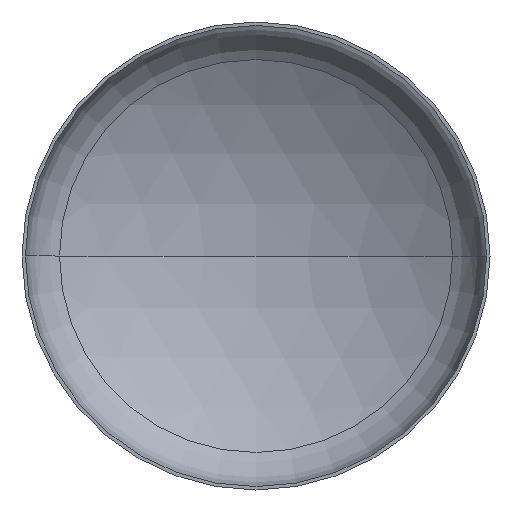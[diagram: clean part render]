
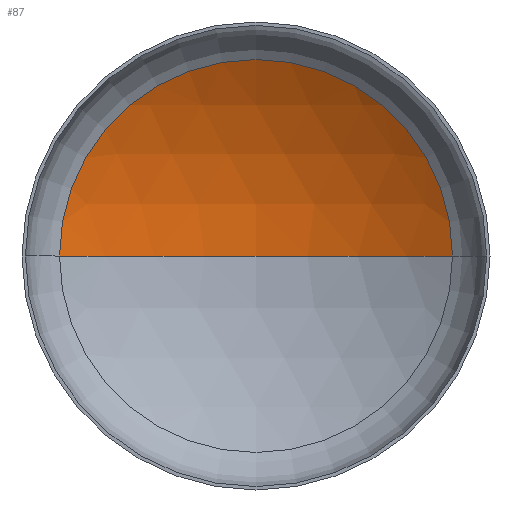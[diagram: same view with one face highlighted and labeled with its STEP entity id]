
A CAD part, front view. The second image highlights one B-rep face of the part: STEP entity #87.
In plain terms, the highlighted spherical face has radius 2400 mm.
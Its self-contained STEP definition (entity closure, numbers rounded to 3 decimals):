
#34 = AXIS2_PLACEMENT_3D ( 'NONE', #308, #304, #381 ) ;
#37 = AXIS2_PLACEMENT_3D ( 'NONE', #93, #200, #214 ) ;
#41 = AXIS2_PLACEMENT_3D ( 'NONE', #88, #69, #55 ) ;
#54 = EDGE_LOOP ( 'NONE', ( #127, #114, #60 ) ) ;
#55 = DIRECTION ( 'NONE',  ( 1., 0., 0. ) ) ;
#60 = ORIENTED_EDGE ( 'NONE', *, *, #137, .T. ) ;
#69 = DIRECTION ( 'NONE',  ( 0., -1., 0. ) ) ;
#71 = VERTEX_POINT ( 'NONE', #322 ) ;
#75 = VERTEX_POINT ( 'NONE', #228 ) ;
#80 = AXIS2_PLACEMENT_3D ( 'NONE', #314, #249, #267 ) ;
#87 = ADVANCED_FACE ( 'NONE', ( #387 ), #289, .F. ) ;
#88 = CARTESIAN_POINT ( 'NONE',  ( 0., 461.58, 0. ) ) ;
#93 = CARTESIAN_POINT ( 'NONE',  ( 0., -1581.447, 0. ) ) ;
#114 = ORIENTED_EDGE ( 'NONE', *, *, #141, .T. ) ;
#127 = ORIENTED_EDGE ( 'NONE', *, *, #143, .F. ) ;
#134 = VERTEX_POINT ( 'NONE', #227 ) ;
#137 = EDGE_CURVE ( 'NONE', #134, #75, #326, .T. ) ;
#141 = EDGE_CURVE ( 'NONE', #71, #134, #260, .T. ) ;
#143 = EDGE_CURVE ( 'NONE', #71, #75, #164, .T. ) ;
#164 = CIRCLE ( 'NONE', #34, 2400. ) ;
#200 = DIRECTION ( 'NONE',  ( 0., 0., -1. ) ) ;
#214 = DIRECTION ( 'NONE',  ( -1., 0., 0. ) ) ;
#227 = CARTESIAN_POINT ( 'NONE',  ( 1259.381, 461.58, 0. ) ) ;
#228 = CARTESIAN_POINT ( 'NONE',  ( -1259.381, 461.58, 0. ) ) ;
#249 = DIRECTION ( 'NONE',  ( 0., 0., -1. ) ) ;
#260 = CIRCLE ( 'NONE', #37, 2400. ) ;
#267 = DIRECTION ( 'NONE',  ( -1., 0., 0. ) ) ;
#289 = SPHERICAL_SURFACE ( 'NONE', #80, 2400. ) ;
#304 = DIRECTION ( 'NONE',  ( 0., 0., 1. ) ) ;
#308 = CARTESIAN_POINT ( 'NONE',  ( 0., -1581.447, 0. ) ) ;
#314 = CARTESIAN_POINT ( 'NONE',  ( 0., -1581.447, 0. ) ) ;
#322 = CARTESIAN_POINT ( 'NONE',  ( 0., 818.553, 0. ) ) ;
#326 = CIRCLE ( 'NONE', #41, 1259.381 ) ;
#381 = DIRECTION ( 'NONE',  ( 1., 0., 0. ) ) ;
#387 = FACE_OUTER_BOUND ( 'NONE', #54, .T. ) ;
